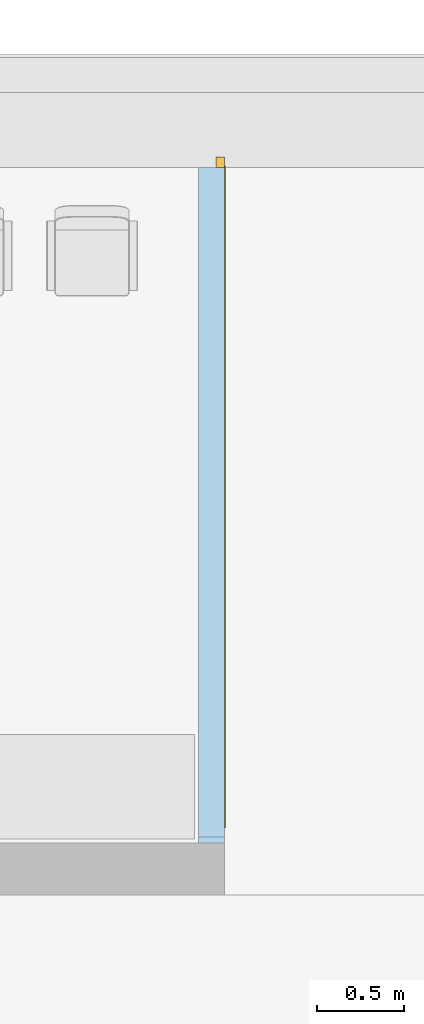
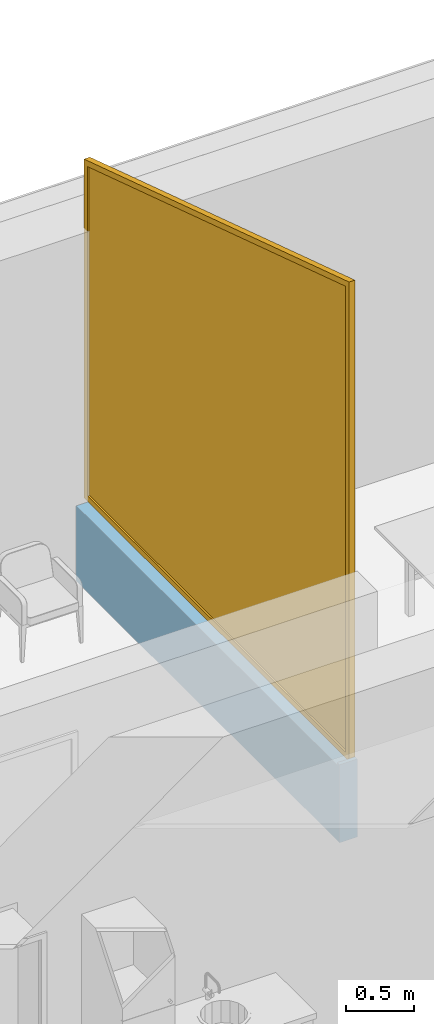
# One storey, part 63 of 194: 1 curtain wall, 1 opening, plus 1 element that does not belong to this part.
"""IFC2X3 building model written with IfcOpenShell, lengths in millimetres."""

import ifcopenshell
import ifcopenshell.guid

model = None  # the IFC model being written
_history = None  # IfcOwnerHistory: only IFC2X3 demands one
_inside = {}  # id of a spatial element -> (the spatial element, [elements in it])
_under = {}  # id of a project, library or spatial element -> (it, [spatial elements below it])
_declared = {}  # id of a project -> (the project, [libraries it declares])
_typed = {}  # id of a type object -> (the type object, [elements of that type])
_made_of = {}  # id of a material, layer set ... -> (it, [elements and type objects made of it])


def new_model(schema):
    """Start an empty IFC model of exactly this schema.

    Asked for "IFC4X3", IfcOpenShell would pick the latest addendum, in which some entities
    have other attributes; the version numbers below select the first issue.
    IFC2X3 requires an IfcOwnerHistory on every rooted entity: one is made here for all.
    """
    global model, _history
    if schema == "IFC4X3":
        model = ifcopenshell.file(schema_version=(4, 3, 0, 0))
    else:
        model = ifcopenshell.file(schema=schema)
    _inside.clear()
    _under.clear()
    _declared.clear()
    _typed.clear()
    _made_of.clear()
    _history = None
    if model.schema == "IFC2X3":
        org = make("IfcOrganization", Name="unknown")
        user = make(
            "IfcPersonAndOrganization",
            ThePerson=make("IfcPerson", FamilyName="unknown"),
            TheOrganization=org,
        )
        app = make(
            "IfcApplication",
            ApplicationDeveloper=org,
            Version="unknown",
            ApplicationFullName="unknown",
            ApplicationIdentifier="unknown",
        )
        _history = make(
            "IfcOwnerHistory",
            OwningUser=user,
            OwningApplication=app,
            ChangeAction="ADDED",
            CreationDate=0,
        )
    return model


def make(cls, **values):
    """One entity of the class cls with the attributes given. An attribute that is None is left unset."""
    return model.create_entity(
        cls, **{name: value for name, value in values.items() if value is not None}
    )


def entity(cls, *values):
    """Any entity or typed value of the class cls, its attributes in the order of the schema. None: left unset."""
    e = model.create_entity(cls)
    for i, value in enumerate(values):
        if value is not None:
            e[i] = value
    return e


def rooted(cls, **values):
    """An entity with a GlobalId (a new one), such as an element, a storey or a relation."""
    return make(cls, GlobalId=ifcopenshell.guid.new(), OwnerHistory=_history, **values)


def si_unit(unit_type, name, prefix=None):
    """IfcSIUnit, for example si_unit("LENGTHUNIT", "METRE", prefix="MILLI")."""
    return make("IfcSIUnit", UnitType=unit_type, Prefix=prefix, Name=name)


def converted_unit(unit_type, name, factor, base, dimensions=None, offset=None):
    """IfcConversionBasedUnit, such as the inch: factor (a typed value) times the base unit."""
    return make(
        "IfcConversionBasedUnit"
        if offset is None
        else "IfcConversionBasedUnitWithOffset",
        ConversionOffset=offset,
        Dimensions=None
        if dimensions is None
        else entity("IfcDimensionalExponents", *dimensions),
        UnitType=unit_type,
        Name=name,
        ConversionFactor=make(
            "IfcMeasureWithUnit", ValueComponent=factor, UnitComponent=base
        ),
    )


def derived_unit(unit_type, elements):
    """IfcDerivedUnit: a product of units, each with its exponent."""
    return make(
        "IfcDerivedUnit",
        Elements=[
            make("IfcDerivedUnitElement", Unit=unit, Exponent=power)
            for unit, power in elements
        ],
        UnitType=unit_type,
    )


def money_unit(currency):
    """IfcMonetaryUnit."""
    return make("IfcMonetaryUnit", Currency=currency)


def assignment(units):
    """IfcUnitAssignment: the units of a project."""
    return None if units is None else make("IfcUnitAssignment", Units=units)


def point(xyz):
    """IfcCartesianPoint."""
    return None if xyz is None else make("IfcCartesianPoint", Coordinates=xyz)


def direction(xyz):
    """IfcDirection."""
    return None if xyz is None else make("IfcDirection", DirectionRatios=xyz)


def frame(location, z_axis=None, x_axis=None):
    """IfcAxis2Placement3D, a coordinate frame: its origin and axes. An axis left out is left unset."""
    return make(
        "IfcAxis2Placement3D",
        Location=point(location),
        Axis=direction(z_axis),
        RefDirection=direction(x_axis),
    )


def origin_with_axes():
    """The frame at (0, 0, 0) with the z axis (0, 0, 1) and the x axis (1, 0, 0) written out."""
    return frame((0.0, 0.0, 0.0), z_axis=(0.0, 0.0, 1.0), x_axis=(1.0, 0.0, 0.0))


def place(relative_to, where):
    """IfcLocalPlacement: puts the frame where relative to a parent placement (None: the world)."""
    return make(
        "IfcLocalPlacement", PlacementRelTo=relative_to, RelativePlacement=where
    )


def context(
    kind, dimensions, precision=None, world=None, true_north=None, identifier=None
):
    """IfcGeometricRepresentationContext, for example the 3D "Model" context."""
    return make(
        "IfcGeometricRepresentationContext",
        ContextIdentifier=identifier,
        ContextType=kind,
        CoordinateSpaceDimension=dimensions,
        Precision=precision,
        WorldCoordinateSystem=world,
        TrueNorth=true_north,
    )


def subcontext(parent, identifier, kind, view, scale=None):
    """IfcGeometricRepresentationSubContext, for example "Body" below "Model"."""
    return make(
        "IfcGeometricRepresentationSubContext",
        ContextIdentifier=identifier,
        ContextType=kind,
        ParentContext=parent,
        TargetScale=scale,
        TargetView=view,
    )


def project(units=None, contexts=None):
    """IfcProject with its units and contexts."""
    return rooted(
        "IfcProject",
        Name="project",
        RepresentationContexts=contexts,
        UnitsInContext=assignment(units),
    )


def spatial(cls, under=None, at=None, **own):
    """A site, building, storey or space (cls), placed at a placement, below another one or the project."""
    s = rooted(cls, ObjectPlacement=at, **own)
    if under is not None:
        _under.setdefault(under.id(), (under, []))[1].append(s)
    return s


def polyline(points):
    """IfcPolyline through the points."""
    return make("IfcPolyline", Points=[point(p) for p in points])


def outline(outer, holes=None, kind="AREA"):
    """IfcArbitraryClosedProfileDef: a profile drawn as a closed curve; with holes, ...WithVoids."""
    if holes is None:
        return make("IfcArbitraryClosedProfileDef", ProfileType=kind, OuterCurve=outer)
    return make(
        "IfcArbitraryProfileDefWithVoids",
        ProfileType=kind,
        OuterCurve=outer,
        InnerCurves=holes,
    )


def extrude(swept, where, along, depth):
    """IfcExtrudedAreaSolid: the profile swept, set in the frame where, extruded along a direction by depth."""
    return make(
        "IfcExtrudedAreaSolid",
        SweptArea=swept,
        Position=where,
        ExtrudedDirection=direction(along),
        Depth=depth,
    )


def faces_of(points, faces, orient=None, outer=None):
    """IfcFace entities. A face is a list of loops; a loop is a list of indices into points, from 0.

    orient and outer hold one flag for each loop. By default every Orientation is true, the
    first loop of a face is its IfcFaceOuterBound and the others are IfcFaceBound.
    """
    made = []
    for i, loops in enumerate(faces):
        bounds = []
        for j, loop in enumerate(loops):
            is_outer = j == 0 if outer is None else outer[i][j]
            bounds.append(
                make(
                    "IfcFaceOuterBound" if is_outer else "IfcFaceBound",
                    Bound=make("IfcPolyLoop", Polygon=[points[k] for k in loop]),
                    Orientation=True if orient is None else orient[i][j],
                )
            )
        made.append(make("IfcFace", Bounds=bounds))
    return made


def open_shell(faces, orient=None, outer=None):
    """The faces of one IfcOpenShell. surface_model builds it on its shared points."""
    return ("IfcOpenShell", faces, orient, outer)


def faceted_brep(points, faces, orient=None, outer=None, voids=None):
    """IfcFacetedBrep: a solid bounded by flat faces; with voids (closed shells), ...WithVoids."""
    shared = [point(p) for p in points]
    hull = make("IfcClosedShell", CfsFaces=faces_of(shared, faces, orient, outer))
    if voids is None:
        return make("IfcFacetedBrep", Outer=hull)
    return make(
        "IfcFacetedBrepWithVoids",
        Outer=hull,
        Voids=[
            make(cls, CfsFaces=faces_of(shared, fs, o, b)) for cls, fs, o, b in voids
        ],
    )


def surface_model(cls, points, shells):
    """IfcFaceBasedSurfaceModel or IfcShellBasedSurfaceModel (cls): surfaces that need not close."""
    shared = [point(p) for p in points]
    made = [make(c, CfsFaces=faces_of(shared, fs, o, b)) for c, fs, o, b in shells]
    if cls == "IfcFaceBasedSurfaceModel":
        return make(cls, FbsmFaces=made)
    return make(cls, SbsmBoundary=made)


def shape(context_of_items, identifier, shape_type, items):
    """IfcShapeRepresentation: the items that make up one representation, for example the "Body"."""
    return make(
        "IfcShapeRepresentation",
        ContextOfItems=context_of_items,
        RepresentationIdentifier=identifier,
        RepresentationType=shape_type,
        Items=items,
    )


def material(Name=None, Category=None):
    """IfcMaterial."""
    return make("IfcMaterial", Name=Name, Category=Category)


def layer(
    of_material, thickness, ventilated=None, Name=None, Category=None, Priority=None
):
    """IfcMaterialLayer: one layer of a wall or slab, of a material (None: an air gap)."""
    return make(
        "IfcMaterialLayer",
        Material=of_material,
        LayerThickness=thickness,
        IsVentilated=ventilated,
        Name=Name,
        Category=Category,
        Priority=Priority,
    )


def layer_set(layers, Name=None):
    """IfcMaterialLayerSet."""
    return make("IfcMaterialLayerSet", MaterialLayers=layers, LayerSetName=Name)


def layer_usage(for_layer_set, set_direction, sense, offset, extent=None):
    """IfcMaterialLayerSetUsage: how a layer set lies in its element."""
    return make(
        "IfcMaterialLayerSetUsage",
        ForLayerSet=for_layer_set,
        LayerSetDirection=set_direction,
        DirectionSense=sense,
        OffsetFromReferenceLine=offset,
        ReferenceExtent=extent,
    )


def made_of(thing, what):
    """Note that an element or type object is made of a material, layer set ...; save() writes the relation."""
    if what is not None:
        _made_of.setdefault(what.id(), (what, []))[1].append(thing)
    return thing


def type_object(cls, material=None, **own):
    """A type object (cls), such as IfcWallType, which elements share."""
    return made_of(rooted(cls, **own), material)


def element(
    cls,
    number,
    at=None,
    inside=None,
    cuts=None,
    type_object=None,
    material=None,
    context=None,
    identifier="Body",
    shape_type=None,
    held_by="IfcProductDefinitionShape",
    body=None,
    shapes=None,
    **own,
):
    """One element of the class cls, such as IfcWall. Its Tag is "e" and its number.

    at: its placement. inside: the storey or other place that contains it. cuts: it is an
    opening in that element (IfcRelVoidsElement). A single representation is given by context,
    identifier, shape_type and body (its items); several are given by shapes. held_by: the class
    of the entity that holds the representations. save() writes the other relations.
    """
    e = rooted(cls, Tag="e%d" % number, ObjectPlacement=at, **own)
    if body is not None:
        shapes = [shape(context, identifier, shape_type, body)]
    if shapes is not None:
        e.Representation = make(held_by, Representations=shapes)
    if inside is not None:
        _inside.setdefault(inside.id(), (inside, []))[1].append(e)
    if cuts is not None:
        rooted(
            "IfcRelVoidsElement", RelatingBuildingElement=cuts, RelatedOpeningElement=e
        )
    if type_object is not None:
        _typed.setdefault(type_object.id(), (type_object, []))[1].append(e)
    return made_of(e, material)


def fill(opening, filler):
    """IfcRelFillsElement: the door or window that sits in an opening."""
    return rooted(
        "IfcRelFillsElement",
        RelatingOpeningElement=opening,
        RelatedBuildingElement=filler,
    )


def aggregate(whole, parts):
    """IfcRelAggregates: a whole, such as a stair, and the parts it consists of."""
    return rooted("IfcRelAggregates", RelatingObject=whole, RelatedObjects=parts)


def save(model, path):
    """Write the relations noted so far, then the file.

    IfcRelAggregates (storeys below a building ...), IfcRelContainedInSpatialStructure (elements
    in a storey), IfcRelDefinesByType, IfcRelAssociatesMaterial and IfcRelDeclares: one each for
    every whole, place, type object, material and project.
    """
    for whole, parts in _under.values():
        aggregate(whole, parts)
    for where, things in _inside.values():
        rooted(
            "IfcRelContainedInSpatialStructure",
            RelatedElements=things,
            RelatingStructure=where,
        )
    for kind, things in _typed.values():
        rooted("IfcRelDefinesByType", RelatedObjects=things, RelatingType=kind)
    for what, things in _made_of.values():
        rooted("IfcRelAssociatesMaterial", RelatedObjects=things, RelatingMaterial=what)
    for by, libraries in _declared.values():
        rooted("IfcRelDeclares", RelatingContext=by, RelatedDefinitions=libraries)
    model.write(path)


model = new_model("IFC2X3")

# Units and contexts
model_context = context("Model", 3, precision=1e-05, world=origin_with_axes(), true_north=direction((0.0, 1.0)))
body_context = subcontext(model_context, "Body", "Model", "MODEL_VIEW")
ifc_project = project(units=[si_unit("LENGTHUNIT", "METRE", prefix="MILLI"), si_unit("AREAUNIT", "SQUARE_METRE"), si_unit("VOLUMEUNIT", "CUBIC_METRE"), converted_unit("PLANEANGLEUNIT", "DEGREE", entity("IfcPlaneAngleMeasure", 0.0174532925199), si_unit("PLANEANGLEUNIT", "RADIAN"), dimensions=[0, 0, 0, 0, 0, 0, 0]), si_unit("SOLIDANGLEUNIT", "STERADIAN"), money_unit("EUR"), converted_unit("TIMEUNIT", "Year", entity("IfcTimeMeasure", 31556926.0), si_unit("TIMEUNIT", "SECOND"), dimensions=[0, 0, 1, 0, 0, 0, 0]), si_unit("MASSUNIT", "GRAM", prefix="KILO"), si_unit("THERMODYNAMICTEMPERATUREUNIT", "DEGREE_CELSIUS"), si_unit("LUMINOUSINTENSITYUNIT", "LUMEN"), si_unit("ENERGYUNIT", "JOULE", prefix="MEGA"), derived_unit("THERMALCONDUCTANCEUNIT", [(si_unit("POWERUNIT", "WATT"), 1), (si_unit("LENGTHUNIT", "METRE"), -1), (si_unit("THERMODYNAMICTEMPERATUREUNIT", "KELVIN"), -1)]), derived_unit("SPECIFICHEATCAPACITYUNIT", [(si_unit("ENERGYUNIT", "JOULE"), 1), (si_unit("MASSUNIT", "GRAM", prefix="KILO"), -1), (si_unit("THERMODYNAMICTEMPERATUREUNIT", "KELVIN"), -1)]), derived_unit("MASSDENSITYUNIT", [(si_unit("MASSUNIT", "GRAM", prefix="KILO"), 1), (si_unit("VOLUMEUNIT", "CUBIC_METRE"), -1)])], contexts=[model_context])

# Site, building, storey
site_placement = place(None, origin_with_axes())
site = spatial("IfcSite", under=ifc_project, at=site_placement, Name="Site", CompositionType="ELEMENT")
building_placement = place(site_placement, origin_with_axes())
building = spatial("IfcBuilding", under=site, at=building_placement, Name="Building", CompositionType="ELEMENT")
storey_placement = place(building_placement, frame((0.0, 0.0, 3000.0), z_axis=(0.0, 0.0, 1.0), x_axis=(1.0, 0.0, 0.0)))
storey = spatial("IfcBuildingStorey", under=building, at=storey_placement, Name="2 KORRUS", CompositionType="ELEMENT", Elevation=3000.0)

# Wall, opening, curtain wall
ifc_material = material(Name="Kivi -  Uus Konstruktsioon")
ifc_layer = layer(ifc_material, 150.0, ventilated="UNKNOWN")
ifc_layer_set = layer_set([ifc_layer], Name="uus ss 150")
ifc_layer_usage = layer_usage(ifc_layer_set, "AXIS2", "POSITIVE", 0.0)
wall_type = type_object("IfcWallType", Name="SS-2", PredefinedType="NOTDEFINED")
wall_placement = place(storey_placement, frame((70234.7281066, 43000.4940854, 0.0), z_axis=(0.0, 0.0, 1.0), x_axis=(0.0, 1.0, 0.0)))
wall = element("IfcWallStandardCase", 1, at=wall_placement, inside=storey, type_object=wall_type, material=ifc_layer_usage, Name="uus ss 150", context=body_context, shape_type="SweptSolid", body=[
    extrude(outline(polyline([(0.0, 0.0), (3871.83180753, 0.0), (3871.83180753, 150.0), (0.0, 150.0), (0.0, 0.0)])), origin_with_axes(), (0.0, 0.0, 1.0), 700.0),
])
opening_placement = place(wall_placement, frame((1982.2982327, 0.0, 676.911823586), z_axis=(0.0, 0.0, 1.0), x_axis=(1.0, 0.0, 0.0)))
opening = element("IfcOpeningElement", 2, at=opening_placement, cuts=wall, Name="Talveaja klaassein", context=body_context, shape_type="SweptSolid", body=[
    extrude(outline(polyline([(-1948.5, 0.0), (-1948.5, -4300.0), (1948.5, -3040.0), (1948.5, 0.0), (-1948.5, 0.0)])), frame((0.0, 150.0, 0.0), z_axis=(0.0, 1.0, 0.0), x_axis=(1.0, 0.0, 0.0)), (0.0, 0.0, -1.0), 450.0),
])
curtain_wall_type = type_object("IfcCurtainWallType", Name="SKS-1", PredefinedType="NOTDEFINED")
curtain_wall_placement = place(opening_placement, frame((1948.5, 0.0, 0.0), z_axis=(0.0, 0.0, 1.0), x_axis=(-1.0, 0.0, 0.0)))
curtain_wall = element("IfcCurtainWall", 3, at=curtain_wall_placement, inside=storey, type_object=curtain_wall_type, Name="Talveaja klaassein", context=body_context, shape_type="SurfaceModel", body=[
    faceted_brep([(3847.0, -50.0, 4231.28518196), (3897.0, -50.0, 4231.28518196), (3897.0, 0.0, 4231.28518196), (3847.0, 0.0, 4231.28518196), (3847.0, -50.0, 50.0), (3897.0, -50.0, 50.0), (3897.0, 0.0, 50.0), (3847.0, 0.0, 50.0)], [[[0, 1, 2, 3]], [[0, 4, 5, 1]], [[1, 5, 6, 2]], [[3, 2, 6, 7]], [[4, 0, 3, 7]], [[5, 4, 7, 6]]]),
    faceted_brep([(50.0000000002, -50.0, 50.0), (0.0, -50.0, 50.0), (0.0, 0.0, 50.0), (50.0000000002, 0.0, 50.0), (50.0000000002, -50.0, 3003.61774547), (0.0, -50.0, 3003.61774547), (0.0, 0.0, 3003.61774547), (50.0000000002, 0.0, 3003.61774547)], [[[0, 1, 2, 3]], [[0, 4, 5, 1]], [[1, 5, 6, 2]], [[3, 2, 6, 7]], [[4, 0, 3, 7]], [[5, 4, 7, 6]]]),
    faceted_brep([(3897.0, -50.0, 4300.0), (3897.0, -50.0, 4231.28518196), (3897.0, 0.0, 4231.28518196), (3897.0, 0.0, 4300.0), (0.0, -50.0, 3040.0), (0.0, -50.0, 3003.61774547), (50.0000000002, -50.0, 3003.61774547), (3847.0, -50.0, 4231.28518196), (3847.0, 0.0, 4231.28518196), (50.0000000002, 0.0, 3003.61774547), (0.0, 0.0, 3003.61774547), (0.0, 0.0, 3040.0)], [[[0, 1, 2, 3]], [[0, 4, 5, 6, 7, 1]], [[1, 7, 8, 2]], [[3, 2, 8, 9, 10, 11]], [[4, 0, 3, 11]], [[5, 4, 11, 10]], [[6, 5, 10, 9]], [[7, 6, 9, 8]]]),
    faceted_brep([(0.0, -50.0, 0.0), (0.0, -50.0, 50.0), (0.0, 0.0, 50.0), (0.0, 0.0, 0.0), (3897.0, -50.0, 0.0), (3897.0, -50.0, 50.0), (3847.0, -50.0, 50.0), (50.0000000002, -50.0, 50.0), (50.0000000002, 0.0, 50.0), (3847.0, 0.0, 50.0), (3897.0, 0.0, 50.0), (3897.0, 0.0, 0.0)], [[[0, 1, 2, 3]], [[0, 4, 5, 6, 7, 1]], [[1, 7, 8, 2]], [[3, 2, 8, 9, 10, 11]], [[4, 0, 3, 11]], [[5, 4, 11, 10]], [[6, 5, 10, 9]], [[7, 6, 9, 8]]]),
    surface_model("IfcShellBasedSurfaceModel", [(3847.0, -35.0, 50.0), (3847.0, -35.0, 4231.28518196), (50.0000000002, -35.0, 3003.61774547), (50.0000000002, -35.0, 50.0)], [open_shell([[[0, 1, 2, 3]]])]),
    surface_model("IfcShellBasedSurfaceModel", [(3847.0, -15.0, 50.0), (50.0000000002, -15.0, 50.0), (50.0000000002, -15.0, 3003.61774547), (3847.0, -15.0, 4231.28518196)], [open_shell([[[0, 1, 2, 3]]])]),
    faceted_brep([(2912.75, -15.0, 50.0), (2892.75, -15.0, 50.0), (2892.75, 5.0, 50.0), (2912.75, 5.0, 50.0), (2912.75, -15.0, 3929.21820736), (2892.75, -15.0, 3922.75169466), (2892.75, 5.0, 3922.75169466), (2912.75, 5.0, 3929.21820736)], [[[0, 1, 2, 3]], [[0, 4, 5, 1]], [[1, 5, 6, 2]], [[3, 2, 6, 7]], [[7, 4, 0, 3]], [[5, 4, 7, 6]]]),
    faceted_brep([(1958.5, -15.0, 50.0), (1938.5, -15.0, 50.0), (1938.5, 5.0, 50.0), (1958.5, 5.0, 50.0), (1958.5, -15.0, 3620.68472007), (1938.5, -15.0, 3614.21820736), (1938.5, 5.0, 3614.21820736), (1958.5, 5.0, 3620.68472007)], [[[0, 1, 2, 3]], [[0, 4, 5, 1]], [[1, 5, 6, 2]], [[3, 2, 6, 7]], [[7, 4, 0, 3]], [[5, 4, 7, 6]]]),
    faceted_brep([(1004.25, -15.0, 50.0), (984.25, -15.0, 50.0), (984.25, 5.0, 50.0), (1004.25, 5.0, 50.0), (1004.25, -15.0, 3312.15123277), (984.25, -15.0, 3305.68472007), (984.25, 5.0, 3305.68472007), (1004.25, 5.0, 3312.15123277)], [[[0, 1, 2, 3]], [[0, 4, 5, 1]], [[1, 5, 6, 2]], [[3, 2, 6, 7]], [[7, 4, 0, 3]], [[5, 4, 7, 6]]]),
    faceted_brep([(3847.0, -15.0, 865.257036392), (2912.75, -15.0, 865.257036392), (2912.75, 5.0, 865.257036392), (3847.0, 5.0, 865.257036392), (3847.0, -15.0, 885.257036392), (2912.75, -15.0, 885.257036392), (2912.75, 5.0, 885.257036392), (3847.0, 5.0, 885.257036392)], [[[0, 1, 2, 3]], [[0, 4, 5, 1]], [[1, 5, 6, 2]], [[3, 2, 6, 7]], [[4, 0, 3, 7]], [[5, 4, 7, 6]]]),
    faceted_brep([(3847.0, -15.0, 1700.51407278), (2912.75, -15.0, 1700.51407278), (2912.75, 5.0, 1700.51407278), (3847.0, 5.0, 1700.51407278), (3847.0, -15.0, 1720.51407278), (2912.75, -15.0, 1720.51407278), (2912.75, 5.0, 1720.51407278), (3847.0, 5.0, 1720.51407278)], [[[0, 1, 2, 3]], [[0, 4, 5, 1]], [[1, 5, 6, 2]], [[3, 2, 6, 7]], [[4, 0, 3, 7]], [[5, 4, 7, 6]]]),
    faceted_brep([(3847.0, -15.0, 2535.77110918), (2912.75, -15.0, 2535.77110918), (2912.75, 5.0, 2535.77110918), (3847.0, 5.0, 2535.77110918), (3847.0, -15.0, 2555.77110918), (2912.75, -15.0, 2555.77110918), (2912.75, 5.0, 2555.77110918), (3847.0, 5.0, 2555.77110918)], [[[0, 1, 2, 3]], [[0, 4, 5, 1]], [[1, 5, 6, 2]], [[3, 2, 6, 7]], [[4, 0, 3, 7]], [[5, 4, 7, 6]]]),
    faceted_brep([(3847.0, -15.0, 3371.02814557), (2912.75, -15.0, 3371.02814557), (2912.75, 5.0, 3371.02814557), (3847.0, 5.0, 3371.02814557), (3847.0, -15.0, 3391.02814557), (2912.75, -15.0, 3391.02814557), (2912.75, 5.0, 3391.02814557), (3847.0, 5.0, 3391.02814557)], [[[0, 1, 2, 3]], [[0, 4, 5, 1]], [[1, 5, 6, 2]], [[3, 2, 6, 7]], [[4, 0, 3, 7]], [[5, 4, 7, 6]]]),
    faceted_brep([(2892.75, -15.0, 865.257036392), (1958.5, -15.0, 865.257036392), (1958.5, 5.0, 865.257036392), (2892.75, 5.0, 865.257036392), (2892.75, -15.0, 885.257036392), (1958.5, -15.0, 885.257036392), (1958.5, 5.0, 885.257036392), (2892.75, 5.0, 885.257036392)], [[[0, 1, 2, 3]], [[0, 4, 5, 1]], [[1, 5, 6, 2]], [[3, 2, 6, 7]], [[4, 0, 3, 7]], [[5, 4, 7, 6]]]),
    faceted_brep([(2892.75, -15.0, 1700.51407278), (1958.5, -15.0, 1700.51407278), (1958.5, 5.0, 1700.51407278), (2892.75, 5.0, 1700.51407278), (2892.75, -15.0, 1720.51407278), (1958.5, -15.0, 1720.51407278), (1958.5, 5.0, 1720.51407278), (2892.75, 5.0, 1720.51407278)], [[[0, 1, 2, 3]], [[0, 4, 5, 1]], [[1, 5, 6, 2]], [[3, 2, 6, 7]], [[4, 0, 3, 7]], [[5, 4, 7, 6]]]),
    faceted_brep([(2892.75, -15.0, 2535.77110918), (1958.5, -15.0, 2535.77110918), (1958.5, 5.0, 2535.77110918), (2892.75, 5.0, 2535.77110918), (2892.75, -15.0, 2555.77110918), (1958.5, -15.0, 2555.77110918), (1958.5, 5.0, 2555.77110918), (2892.75, 5.0, 2555.77110918)], [[[0, 1, 2, 3]], [[0, 4, 5, 1]], [[1, 5, 6, 2]], [[3, 2, 6, 7]], [[4, 0, 3, 7]], [[5, 4, 7, 6]]]),
    faceted_brep([(2892.75, -15.0, 3371.02814557), (1958.5, -15.0, 3371.02814557), (1958.5, 5.0, 3371.02814557), (2892.75, 5.0, 3371.02814557), (2892.75, -15.0, 3391.02814557), (1958.5, -15.0, 3391.02814557), (1958.5, 5.0, 3391.02814557), (2892.75, 5.0, 3391.02814557)], [[[0, 1, 2, 3]], [[0, 4, 5, 1]], [[1, 5, 6, 2]], [[3, 2, 6, 7]], [[4, 0, 3, 7]], [[5, 4, 7, 6]]]),
    faceted_brep([(1938.5, -15.0, 865.257036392), (1004.25, -15.0, 865.257036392), (1004.25, 5.0, 865.257036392), (1938.5, 5.0, 865.257036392), (1938.5, -15.0, 885.257036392), (1004.25, -15.0, 885.257036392), (1004.25, 5.0, 885.257036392), (1938.5, 5.0, 885.257036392)], [[[0, 1, 2, 3]], [[0, 4, 5, 1]], [[1, 5, 6, 2]], [[3, 2, 6, 7]], [[4, 0, 3, 7]], [[5, 4, 7, 6]]]),
    faceted_brep([(1938.5, -15.0, 1700.51407278), (1004.25, -15.0, 1700.51407278), (1004.25, 5.0, 1700.51407278), (1938.5, 5.0, 1700.51407278), (1938.5, -15.0, 1720.51407278), (1004.25, -15.0, 1720.51407278), (1004.25, 5.0, 1720.51407278), (1938.5, 5.0, 1720.51407278)], [[[0, 1, 2, 3]], [[0, 4, 5, 1]], [[1, 5, 6, 2]], [[3, 2, 6, 7]], [[4, 0, 3, 7]], [[5, 4, 7, 6]]]),
    faceted_brep([(1938.5, -15.0, 2535.77110918), (1004.25, -15.0, 2535.77110918), (1004.25, 5.0, 2535.77110918), (1938.5, 5.0, 2535.77110918), (1938.5, -15.0, 2555.77110918), (1004.25, -15.0, 2555.77110918), (1004.25, 5.0, 2555.77110918), (1938.5, 5.0, 2555.77110918)], [[[0, 1, 2, 3]], [[0, 4, 5, 1]], [[1, 5, 6, 2]], [[3, 2, 6, 7]], [[4, 0, 3, 7]], [[5, 4, 7, 6]]]),
    faceted_brep([(1938.5, -15.0, 3371.02814557), (1186.3478803, -15.0, 3371.02814557), (1186.3478803, 5.0, 3371.02814557), (1938.5, 5.0, 3371.02814557), (1938.5, -15.0, 3391.02814557), (1248.20502316, -15.0, 3391.02814557), (1248.20502316, 5.0, 3391.02814557), (1938.5, 5.0, 3391.02814557)], [[[0, 1, 2, 3]], [[0, 4, 5, 1]], [[1, 5, 6, 2]], [[3, 2, 6, 7]], [[4, 0, 3, 7]], [[6, 5, 4, 7]]]),
    faceted_brep([(984.25, -15.0, 865.257036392), (50.0000000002, -15.0, 865.257036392), (50.0000000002, 5.0, 865.257036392), (984.25, 5.0, 865.257036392), (984.25, -15.0, 885.257036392), (50.0000000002, -15.0, 885.257036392), (50.0000000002, 5.0, 885.257036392), (984.25, 5.0, 885.257036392)], [[[0, 1, 2, 3]], [[0, 4, 5, 1]], [[1, 5, 6, 2]], [[3, 2, 6, 7]], [[4, 0, 3, 7]], [[5, 4, 7, 6]]]),
    faceted_brep([(984.25, -15.0, 1700.51407278), (50.0000000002, -15.0, 1700.51407278), (50.0000000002, 5.0, 1700.51407278), (984.25, 5.0, 1700.51407278), (984.25, -15.0, 1720.51407278), (50.0000000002, -15.0, 1720.51407278), (50.0000000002, 5.0, 1720.51407278), (984.25, 5.0, 1720.51407278)], [[[0, 1, 2, 3]], [[0, 4, 5, 1]], [[1, 5, 6, 2]], [[3, 2, 6, 7]], [[4, 0, 3, 7]], [[5, 4, 7, 6]]]),
    faceted_brep([(984.25, -15.0, 2535.77110918), (50.0000000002, -15.0, 2535.77110918), (50.0000000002, 5.0, 2535.77110918), (984.25, 5.0, 2535.77110918), (984.25, -15.0, 2555.77110918), (50.0000000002, -15.0, 2555.77110918), (50.0000000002, 5.0, 2555.77110918), (984.25, 5.0, 2555.77110918)], [[[0, 1, 2, 3]], [[0, 4, 5, 1]], [[1, 5, 6, 2]], [[3, 2, 6, 7]], [[4, 0, 3, 7]], [[5, 4, 7, 6]]]),
])
fill(opening, curtain_wall)

save(model, "model.ifc")
